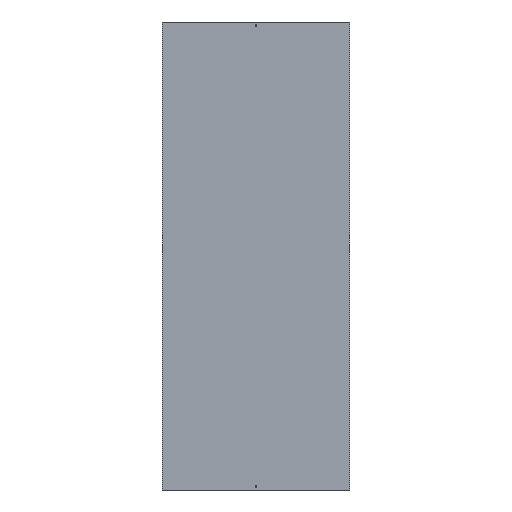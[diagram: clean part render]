
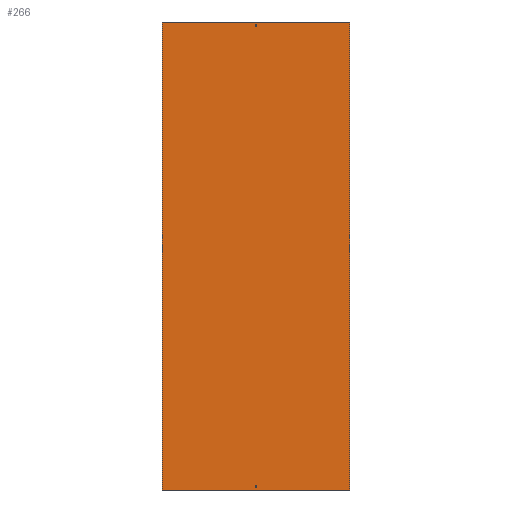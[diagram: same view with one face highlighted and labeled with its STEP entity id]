
A CAD part, front view. The second image highlights one B-rep face of the part: STEP entity #266.
In plain terms, the highlighted planar face has unit normal (0, -1, 0).
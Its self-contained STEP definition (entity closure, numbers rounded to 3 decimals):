
#7 = CARTESIAN_POINT ( 'NONE',  ( -400., -1.5, 1000. ) ) ;
#10 = EDGE_CURVE ( 'NONE', #199, #201, #169, .T. ) ;
#16 = EDGE_CURVE ( 'NONE', #118, #151, #581, .T. ) ;
#22 = EDGE_LOOP ( 'NONE', ( #208, #501, #350, #97 ) ) ;
#39 = VECTOR ( 'NONE', #452, 1000. ) ;
#43 = CARTESIAN_POINT ( 'NONE',  ( -401.5, -1.5, 1000. ) ) ;
#61 = ORIENTED_EDGE ( 'NONE', *, *, #91, .T. ) ;
#62 = CARTESIAN_POINT ( 'NONE',  ( -401.5, -1.5, -1000. ) ) ;
#68 = CARTESIAN_POINT ( 'NONE',  ( 3.25, -1.5, 988. ) ) ;
#69 = EDGE_CURVE ( 'NONE', #346, #538, #182, .T. ) ;
#73 = LINE ( 'NONE', #137, #87 ) ;
#87 = VECTOR ( 'NONE', #327, 1000. ) ;
#91 = EDGE_CURVE ( 'NONE', #423, #346, #544, .T. ) ;
#97 = ORIENTED_EDGE ( 'NONE', *, *, #331, .T. ) ;
#108 = VECTOR ( 'NONE', #250, 1000. ) ;
#111 = PLANE ( 'NONE',  #403 ) ;
#113 = EDGE_LOOP ( 'NONE', ( #477, #560, #61, #366 ) ) ;
#118 = VERTEX_POINT ( 'NONE', #578 ) ;
#124 = CARTESIAN_POINT ( 'NONE',  ( -400., -1.5, 1000. ) ) ;
#135 = EDGE_CURVE ( 'NONE', #373, #153, #255, .T. ) ;
#137 = CARTESIAN_POINT ( 'NONE',  ( -401.5, -1.5, 979. ) ) ;
#146 = LINE ( 'NONE', #473, #561 ) ;
#150 = VECTOR ( 'NONE', #471, 1000. ) ;
#151 = VERTEX_POINT ( 'NONE', #470 ) ;
#153 = VERTEX_POINT ( 'NONE', #332 ) ;
#156 = DIRECTION ( 'NONE',  ( 0., 0., 1. ) ) ;
#161 = FACE_OUTER_BOUND ( 'NONE', #113, .T. ) ;
#166 = EDGE_CURVE ( 'NONE', #151, #304, #146, .T. ) ;
#169 = LINE ( 'NONE', #264, #436 ) ;
#172 = CARTESIAN_POINT ( 'NONE',  ( 3.25, -1.5, -979. ) ) ;
#175 = VECTOR ( 'NONE', #460, 1000. ) ;
#181 = DIRECTION ( 'NONE',  ( -1., 0., 0. ) ) ;
#182 = LINE ( 'NONE', #124, #405 ) ;
#199 = VERTEX_POINT ( 'NONE', #259 ) ;
#201 = VERTEX_POINT ( 'NONE', #68 ) ;
#205 = VERTEX_POINT ( 'NONE', #172 ) ;
#208 = ORIENTED_EDGE ( 'NONE', *, *, #16, .T. ) ;
#228 = ORIENTED_EDGE ( 'NONE', *, *, #453, .F. ) ;
#235 = EDGE_CURVE ( 'NONE', #304, #205, #475, .T. ) ;
#244 = EDGE_CURVE ( 'NONE', #253, #538, #481, .T. ) ;
#245 = CARTESIAN_POINT ( 'NONE',  ( -401.5, -1.5, 988. ) ) ;
#250 = DIRECTION ( 'NONE',  ( -1., 0., 0. ) ) ;
#253 = VERTEX_POINT ( 'NONE', #382 ) ;
#255 = LINE ( 'NONE', #367, #513 ) ;
#259 = CARTESIAN_POINT ( 'NONE',  ( 3.25, -1.5, 979. ) ) ;
#264 = CARTESIAN_POINT ( 'NONE',  ( 3.25, -1.5, 1000. ) ) ;
#266 = ADVANCED_FACE ( 'NONE', ( #565, #161, #347 ), #111, .T. ) ;
#270 = DIRECTION ( 'NONE',  ( 0., 0., -1. ) ) ;
#277 = CARTESIAN_POINT ( 'NONE',  ( -400., -1.5, -1000. ) ) ;
#282 = LINE ( 'NONE', #458, #488 ) ;
#289 = LINE ( 'NONE', #245, #150 ) ;
#304 = VERTEX_POINT ( 'NONE', #329 ) ;
#317 = DIRECTION ( 'NONE',  ( 0., -1., 0. ) ) ;
#324 = ORIENTED_EDGE ( 'NONE', *, *, #10, .F. ) ;
#327 = DIRECTION ( 'NONE',  ( 1., 0., 0. ) ) ;
#328 = EDGE_CURVE ( 'NONE', #201, #373, #289, .T. ) ;
#329 = CARTESIAN_POINT ( 'NONE',  ( -3.25, -1.5, -979. ) ) ;
#331 = EDGE_CURVE ( 'NONE', #205, #118, #282, .T. ) ;
#332 = CARTESIAN_POINT ( 'NONE',  ( -3.25, -1.5, 979. ) ) ;
#340 = CARTESIAN_POINT ( 'NONE',  ( 400., -1.5, 1000. ) ) ;
#342 = CARTESIAN_POINT ( 'NONE',  ( -401.5, -1.5, -979. ) ) ;
#346 = VERTEX_POINT ( 'NONE', #7 ) ;
#347 = FACE_BOUND ( 'NONE', #22, .T. ) ;
#350 = ORIENTED_EDGE ( 'NONE', *, *, #235, .T. ) ;
#357 = CARTESIAN_POINT ( 'NONE',  ( -401.5, -1.5, 1000. ) ) ;
#366 = ORIENTED_EDGE ( 'NONE', *, *, #69, .T. ) ;
#367 = CARTESIAN_POINT ( 'NONE',  ( -3.25, -1.5, 1000. ) ) ;
#370 = LINE ( 'NONE', #340, #175 ) ;
#373 = VERTEX_POINT ( 'NONE', #390 ) ;
#382 = CARTESIAN_POINT ( 'NONE',  ( 400., -1.5, -1000. ) ) ;
#383 = VECTOR ( 'NONE', #521, 1000. ) ;
#390 = CARTESIAN_POINT ( 'NONE',  ( -3.25, -1.5, 988. ) ) ;
#403 = AXIS2_PLACEMENT_3D ( 'NONE', #43, #317, #270 ) ;
#405 = VECTOR ( 'NONE', #541, 1000. ) ;
#408 = EDGE_LOOP ( 'NONE', ( #479, #421, #324, #228 ) ) ;
#414 = DIRECTION ( 'NONE',  ( 0., 0., -1. ) ) ;
#421 = ORIENTED_EDGE ( 'NONE', *, *, #328, .F. ) ;
#423 = VERTEX_POINT ( 'NONE', #545 ) ;
#436 = VECTOR ( 'NONE', #583, 1000. ) ;
#452 = DIRECTION ( 'NONE',  ( -1., 0., 0. ) ) ;
#453 = EDGE_CURVE ( 'NONE', #153, #199, #73, .T. ) ;
#455 = CARTESIAN_POINT ( 'NONE',  ( -401.5, -1.5, -988. ) ) ;
#458 = CARTESIAN_POINT ( 'NONE',  ( 3.25, -1.5, 1000. ) ) ;
#460 = DIRECTION ( 'NONE',  ( 0., 0., -1. ) ) ;
#470 = CARTESIAN_POINT ( 'NONE',  ( -3.25, -1.5, -988. ) ) ;
#471 = DIRECTION ( 'NONE',  ( -1., 0., 0. ) ) ;
#473 = CARTESIAN_POINT ( 'NONE',  ( -3.25, -1.5, 1000. ) ) ;
#475 = LINE ( 'NONE', #342, #383 ) ;
#477 = ORIENTED_EDGE ( 'NONE', *, *, #244, .F. ) ;
#479 = ORIENTED_EDGE ( 'NONE', *, *, #135, .F. ) ;
#481 = LINE ( 'NONE', #62, #108 ) ;
#488 = VECTOR ( 'NONE', #414, 1000. ) ;
#499 = EDGE_CURVE ( 'NONE', #423, #253, #370, .T. ) ;
#501 = ORIENTED_EDGE ( 'NONE', *, *, #166, .T. ) ;
#513 = VECTOR ( 'NONE', #553, 1000. ) ;
#521 = DIRECTION ( 'NONE',  ( 1., 0., 0. ) ) ;
#538 = VERTEX_POINT ( 'NONE', #277 ) ;
#541 = DIRECTION ( 'NONE',  ( 0., 0., -1. ) ) ;
#544 = LINE ( 'NONE', #357, #39 ) ;
#545 = CARTESIAN_POINT ( 'NONE',  ( 400., -1.5, 1000. ) ) ;
#553 = DIRECTION ( 'NONE',  ( 0., 0., -1. ) ) ;
#560 = ORIENTED_EDGE ( 'NONE', *, *, #499, .F. ) ;
#561 = VECTOR ( 'NONE', #156, 1000. ) ;
#565 = FACE_BOUND ( 'NONE', #408, .T. ) ;
#578 = CARTESIAN_POINT ( 'NONE',  ( 3.25, -1.5, -988. ) ) ;
#581 = LINE ( 'NONE', #455, #587 ) ;
#583 = DIRECTION ( 'NONE',  ( 0., 0., 1. ) ) ;
#587 = VECTOR ( 'NONE', #181, 1000. ) ;
